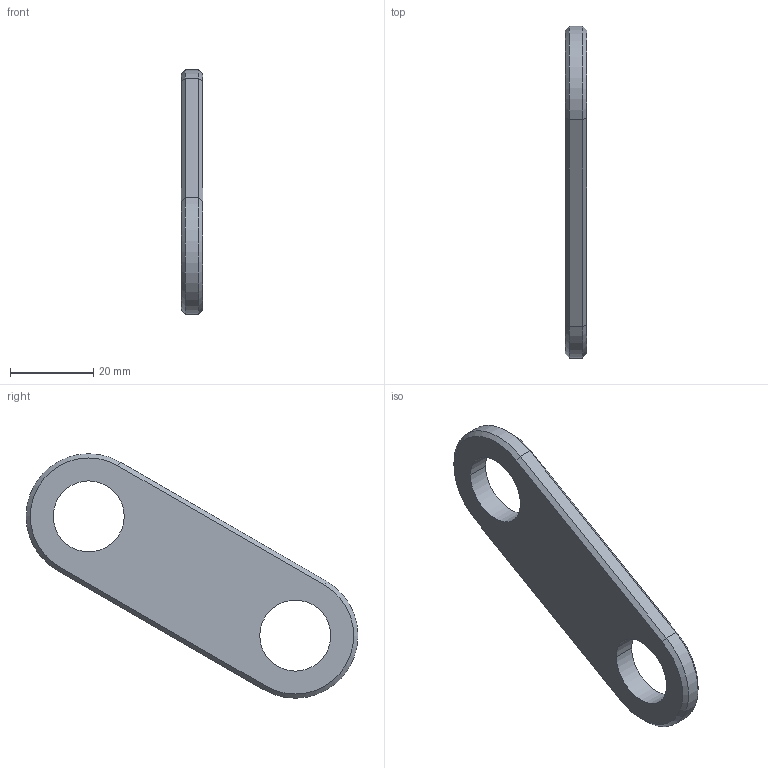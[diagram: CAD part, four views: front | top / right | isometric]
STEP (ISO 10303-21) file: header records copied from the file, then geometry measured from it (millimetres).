
FILE_DESCRIPTION(('CATIA V5 STEP Exchange','CAx-IF Rec.Pracs.--- Model Styling and Organization---1.2---2011-12-15'),'2;1');
FILE_NAME('X:\Projects\INTERIORS\VEMINA\IL-96-026_027\2.WORK_DATA\01.USERS\dmitriy.khorkov\02 OUT DATA\Пак 5_Листовые детали\STP\V.9626.7522.810.051-02.stp','2025-07-03T04:51:05+00:00',('none'),('none'),'CATIA Version 5-6 Release 2013 SP6 HF12','CATIA V5 STEP AP214','none');
FILE_SCHEMA(('AUTOMOTIVE_DESIGN { 1 0 10303 214 1 1 1 1 }'));
Length unit declared in the file: millimetre
Products named in the file (1): V.9626.7522.810.051-02
Bounding box: 5.2 x 79.49 x 58.57 mm (x, y, z)
Volume: 10023.9 mm3; surface area: 5327.7 mm2
Topology: 1 solids, 1 shells, 18 faces, 40 edges, 24 vertices
Faces by surface type: plane 8, cylinder 6, cone 4
Entity records: 499 total; most frequent: CARTESIAN_POINT 81, ORIENTED_EDGE 80, DIRECTION 72, EDGE_CURVE 40, AXIS2_PLACEMENT_3D 33, VECTOR 24, LINE 24, VERTEX_POINT 24
